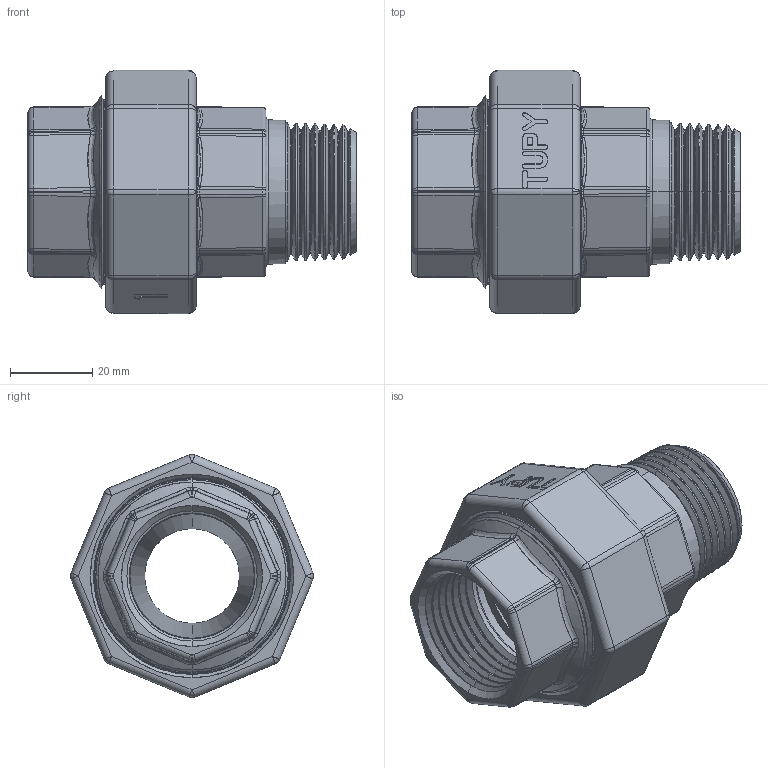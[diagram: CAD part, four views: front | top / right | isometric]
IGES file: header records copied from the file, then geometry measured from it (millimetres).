
Start section: SolidWorks IGES file using analytic representation for surfaces
Global section: file name: C:\Users\Joel Rosa\Desktop\Tubulação\12-65-X\12-65-007.IGS; native system: SolidWorks 2011; preprocessor: SolidWorks 2011; author: Joel Rosa; date: 130721.183908; units: millimetre
Bounding box: 80 x 59.21 x 59.22 mm (x, y, z)
Surface area: 34718.9 mm2 (no closed solid volume)
Topology: 0 solids, 0 shells, 640 faces, 4927 edges, 4921 vertices
Faces by surface type: bspline 415, revolution 225
